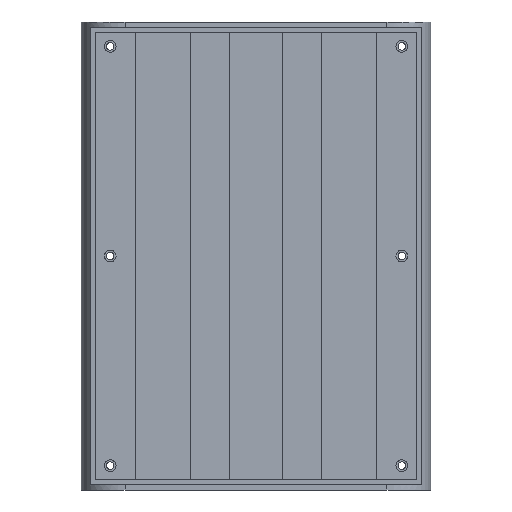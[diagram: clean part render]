
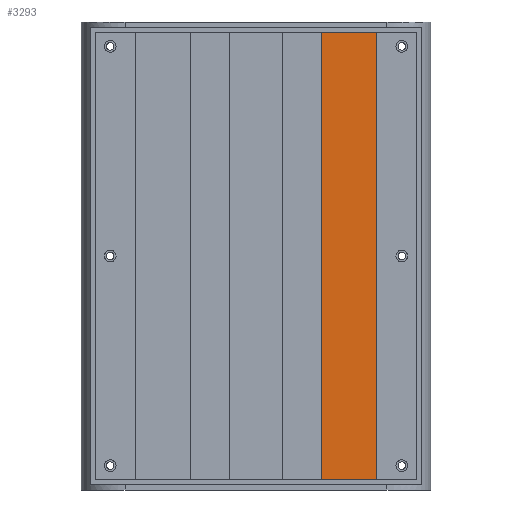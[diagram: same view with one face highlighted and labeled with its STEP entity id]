
A CAD part, front view. The second image highlights one B-rep face of the part: STEP entity #3293.
In plain terms, the highlighted planar face has unit normal (0, -1, 0).
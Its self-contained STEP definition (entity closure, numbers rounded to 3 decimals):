
#62 = DIRECTION ( 'NONE',  ( 0., -1., 0. ) ) ;
#140 = VERTEX_POINT ( 'NONE', #1678 ) ;
#219 = CARTESIAN_POINT ( 'NONE',  ( 69.05, -27.5, 128. ) ) ;
#459 = VERTEX_POINT ( 'NONE', #3954 ) ;
#760 = ORIENTED_EDGE ( 'NONE', *, *, #3583, .T. ) ;
#1377 = VERTEX_POINT ( 'NONE', #219 ) ;
#1382 = DIRECTION ( 'NONE',  ( 1., 0., 0. ) ) ;
#1678 = CARTESIAN_POINT ( 'NONE',  ( 37.55, -27.5, 128. ) ) ;
#1761 = LINE ( 'NONE', #4862, #1775 ) ;
#1775 = VECTOR ( 'NONE', #4757, 1000. ) ;
#2134 = AXIS2_PLACEMENT_3D ( 'NONE', #7499, #62, #6405 ) ;
#2232 = EDGE_CURVE ( 'NONE', #1377, #140, #1761, .T. ) ;
#2699 = ORIENTED_EDGE ( 'NONE', *, *, #2232, .T. ) ;
#3079 = ORIENTED_EDGE ( 'NONE', *, *, #3388, .T. ) ;
#3262 = VECTOR ( 'NONE', #1382, 1000. ) ;
#3293 = ADVANCED_FACE ( 'NONE', ( #6017 ), #7400, .T. ) ;
#3315 = ORIENTED_EDGE ( 'NONE', *, *, #6093, .T. ) ;
#3388 = EDGE_CURVE ( 'NONE', #6712, #1377, #4705, .T. ) ;
#3540 = LINE ( 'NONE', #3913, #3262 ) ;
#3543 = EDGE_LOOP ( 'NONE', ( #760, #3315, #3079, #2699 ) ) ;
#3583 = EDGE_CURVE ( 'NONE', #140, #459, #5166, .T. ) ;
#3913 = CARTESIAN_POINT ( 'NONE',  ( 37.55, -27.5, -128. ) ) ;
#3954 = CARTESIAN_POINT ( 'NONE',  ( 37.55, -27.5, -128. ) ) ;
#4632 = CARTESIAN_POINT ( 'NONE',  ( 69.05, -27.5, -128. ) ) ;
#4693 = VECTOR ( 'NONE', #6827, 1000. ) ;
#4696 = DIRECTION ( 'NONE',  ( 0., 0., -1. ) ) ;
#4705 = LINE ( 'NONE', #6836, #4693 ) ;
#4757 = DIRECTION ( 'NONE',  ( -1., 0., 0. ) ) ;
#4862 = CARTESIAN_POINT ( 'NONE',  ( 37.55, -27.5, 128. ) ) ;
#4904 = CARTESIAN_POINT ( 'NONE',  ( 37.55, -27.5, 128. ) ) ;
#5166 = LINE ( 'NONE', #4904, #5348 ) ;
#5348 = VECTOR ( 'NONE', #4696, 1000. ) ;
#6017 = FACE_OUTER_BOUND ( 'NONE', #3543, .T. ) ;
#6093 = EDGE_CURVE ( 'NONE', #459, #6712, #3540, .T. ) ;
#6405 = DIRECTION ( 'NONE',  ( 0., 0., -1. ) ) ;
#6712 = VERTEX_POINT ( 'NONE', #4632 ) ;
#6827 = DIRECTION ( 'NONE',  ( 0., 0., 1. ) ) ;
#6836 = CARTESIAN_POINT ( 'NONE',  ( 69.05, -27.5, 128. ) ) ;
#7400 = PLANE ( 'NONE',  #2134 ) ;
#7499 = CARTESIAN_POINT ( 'NONE',  ( 0., -27.5, 0. ) ) ;
